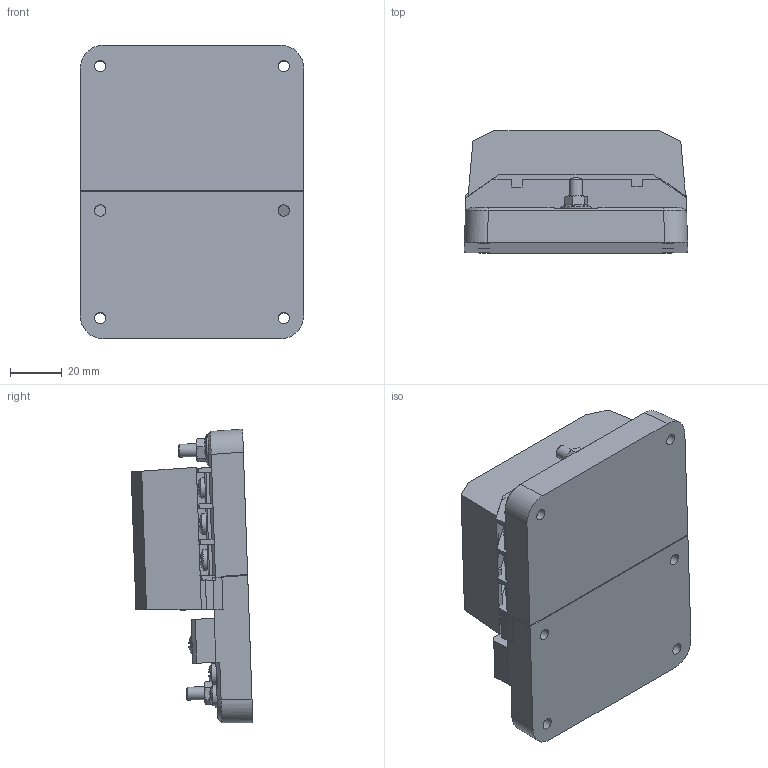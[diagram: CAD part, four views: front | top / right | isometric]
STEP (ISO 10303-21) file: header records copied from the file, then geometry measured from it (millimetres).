
FILE_DESCRIPTION(/* description */ (''),/* implementation_level */ '2;1');
FILE_NAME(/* name */ '5f9c3172e727fc115b8f8977',/* time_stamp */ '2020-10-30T15:29:55+00:00',/* author */ (''),/* organization */ (''),/* preprocessor_version */ 'ST-DEVELOPER v16.7',/* originating_system */ $,/* authorisation */ $);
FILE_SCHEMA (('AUTOMOTIVE_DESIGN {1 0 10303 214 3 1 1}'));
Length unit declared in the file: metre
Products named in the file (10): 8025; 8028 No Filler <1>; PH Pan head screw M4x0.70 x 8; Socket button head screw M5x0.8 x 12; Hex flange nut M5x0.80; Part 1; 8030 <1>; PH Pan head screw M5x0.80 x 12
Assembly tree (27 placements, depth 3):
  8025
    8028 No Filler <1>
      PH Pan head screw M4x0.70 x 8  x6
      Socket button head screw M5x0.8 x 12
      Hex flange nut M5x0.80
      Part 1
      Part 1
    8030 <1>
      PH Pan head screw M4x0.70 x 8  x12
      PH Pan head screw M5x0.80 x 12
      Hex flange nut M5x0.80
      Part 1
Bounding box: 86.5 x 47.12 x 113.73 mm (x, y, z)
Volume: 206062.6 mm3; surface area: 65455.8 mm2
Topology: 25 solids, 25 shells, 1207 faces, 3197 edges, 2095 vertices
Faces by surface type: plane 933, cylinder 156, cone 60, torus 22, sphere 20, bspline 16
Full cylindrical faces by diameter (mm): 3.175 x6, 3.2 x6, 3.35 x8, 3.624 x2, 3.849 x2, 3.962 x2, 4 x18, 4.134 x2, 4.45 x6, 5 x2, 7.1 x2, 7.112 x2, 8 x18, 8.5 x2, 8.56 x2, 9.5 x1
Entity records: 19489 total; most frequent: CARTESIAN_POINT 3721, ORIENTED_EDGE 3144, DIRECTION 3123, EDGE_CURVE 1572, LINE 1177, VECTOR 1177, VERTEX_POINT 1070, AXIS2_PLACEMENT_3D 973
